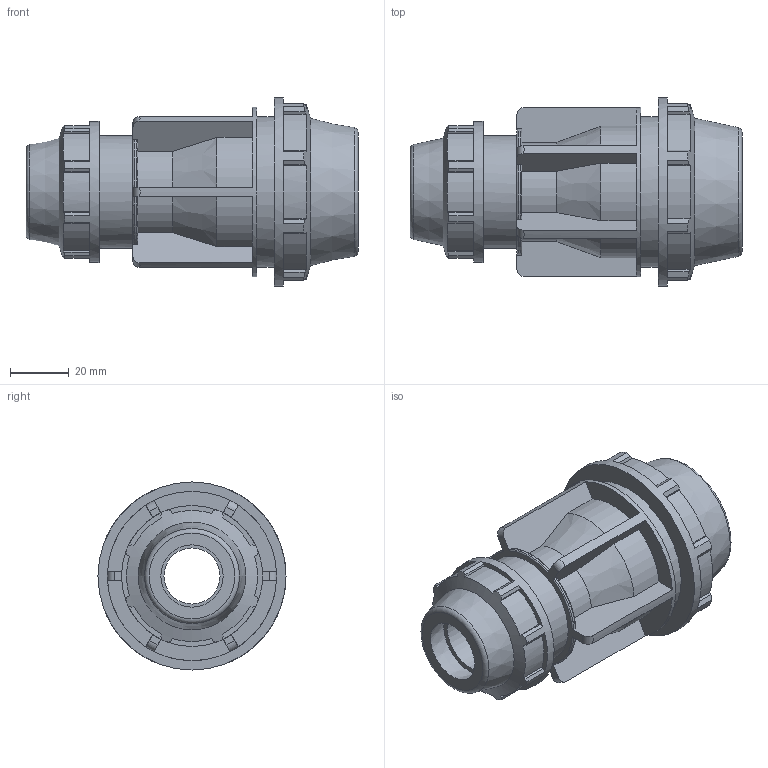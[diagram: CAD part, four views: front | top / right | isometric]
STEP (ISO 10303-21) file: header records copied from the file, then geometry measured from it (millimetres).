
FILE_DESCRIPTION(/* description */ ('PLASSON REDUCING COUPLER 1'''' - 1/2'''''),/* implementation_level */ '2;1');
FILE_NAME(/* name */ 'C:\Dropbox\KIMPROJECTS-Inventor 2019\99-16-3568-Processing Inch\ASTM Compression 2021\0711M0\0711M0010005.ipt.stp',/* time_stamp */ '2021-08-26T12:32:31+03:00',/* author */ ('KIM'),/* organization */ (''),/* preprocessor_version */ 'ST-DEVELOPER v17.2',/* originating_system */ 'Autodesk Inventor 2019',/* authorisation */ '');
FILE_SCHEMA (('AUTOMOTIVE_DESIGN { 1 0 10303 214 3 1 1 }'));
Length unit declared in the file: inch
Products named in the file (1): 0711M0010005
Bounding box: 113 x 64.01 x 64.01 mm (x, y, z)
Volume: 115390.5 mm3; surface area: 37650.4 mm2
Topology: 1 solids, 1 shells, 218 faces, 650 edges, 441 vertices
Faces by surface type: plane 143, cylinder 47, cone 14, torus 14
Full cylindrical faces by diameter (mm): 21.2 x1, 33.3 x1, 38.405 x1, 48.006 x1, 51.206 x1, 57.607 x1, 64.008 x1
Entity records: 7796 total; most frequent: CARTESIAN_POINT 1688, ORIENTED_EDGE 1300, DIRECTION 1189, EDGE_CURVE 650, VERTEX_POINT 441, AXIS2_PLACEMENT_3D 419, LINE 351, VECTOR 351
